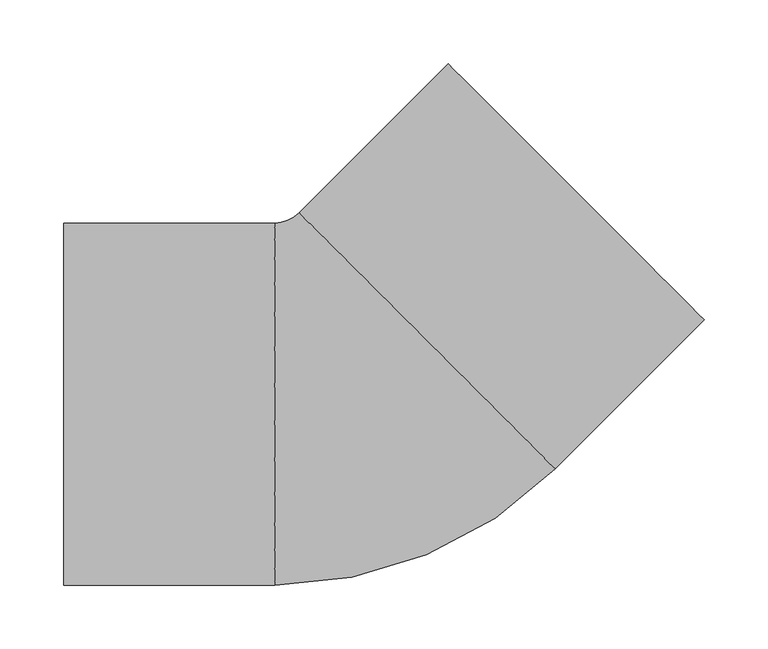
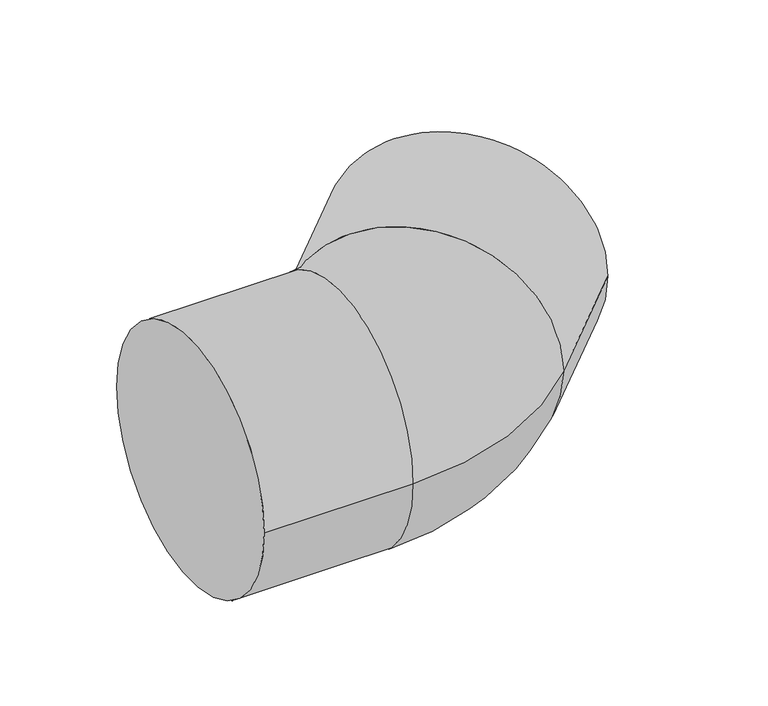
"""IFC4 building model written with IfcOpenShell, lengths in millimetres: pipe fitting geometry, 01051067 : Codos 45º."""

from ifc_helpers import new_model, si_unit, point, frame, origin, place, context, project, spatial, circle_curve, ellipse_curve, trimmed, source, transform, mapped, element, save
from ifc_brep_helpers import plane_surface, cylinder_surface, revolved_surface, advanced_brep


def pipe_fitting_b0149d09(model_context):
    return source(origin(), model_context, "Body", "AdvancedBrep", [
        advanced_brep(
        [(-235.0, -141.75, 0.0), (-235.0, 141.75, 0.0), (-70.0, -141.75, 0.0), (-70.0, 141.75, 0.0), (-50.7349116, 149.7298609, 0.0), (149.7298609, -50.7349116, 0.0), (266.4024798, 65.9377073, 0.0), (65.9377073, 266.4024798, 0.0)],
        [
            (0, 1, circle_curve(frame((-235.0, 0.0, 0.0), z_axis=(-1.0, 0.0, 0.0), x_axis=(0.0, 1.0, 0.0)), 141.75)),
            (1, 0, circle_curve(frame((-235.0, 0.0, 0.0), z_axis=(-1.0, 0.0, 0.0), x_axis=(0.0, 1.0, 0.0)), 141.75)),
            (0, 2),
            (2, 3, circle_curve(frame((-70.0, 0.0, 0.0), z_axis=(-1.0, 0.0, 0.0), x_axis=(0.0, 1.0, 0.0)), 141.75)),
            (3, 1),
            (3, 2, circle_curve(frame((-70.0, 0.0, 0.0), z_axis=(-1.0, 0.0, 0.0), x_axis=(0.0, 1.0, 0.0)), 141.75)),
            (4, 3, circle_curve(frame((-70.0, 168.9949494, 0.0), z_axis=(0.0, 0.0, -1.0), x_axis=(0.0, -1.0, 0.0)), 27.2449494)),
            (2, 5, circle_curve(frame((-70.0, 168.9949494, 0.0), z_axis=(0.0, 0.0, 1.0), x_axis=(0.0, -1.0, 0.0)), 310.7449494)),
            (5, 4, circle_curve(frame((49.4974747, 49.4974747, 0.0), z_axis=(-0.7071067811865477, -0.7071067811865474, 0.0), x_axis=(-0.7071067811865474, 0.7071067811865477, 0.0)), 141.75)),
            (4, 5, circle_curve(frame((49.4974747, 49.4974747, 0.0), z_axis=(-0.7071067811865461, -0.7071067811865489, 0.0), x_axis=(-0.7071067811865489, 0.7071067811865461, 0.0)), 141.75)),
            (6, 7, circle_curve(frame((166.1700936, 166.1700936, 0.0), z_axis=(0.7071067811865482, 0.7071067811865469, 0.0), x_axis=(-0.7071067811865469, 0.7071067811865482, 0.0)), 141.75)),
            (7, 6, circle_curve(frame((166.1700936, 166.1700936, 0.0), z_axis=(0.7071067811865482, 0.7071067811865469, 0.0), x_axis=(-0.7071067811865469, 0.7071067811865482, 0.0)), 141.75)),
            (5, 6),
            (7, 4),
        ],
        [
            plane_surface(frame((-235.0, 0.0, 0.0), z_axis=(-1.0, 0.0, 0.0), x_axis=(0.0, 0.0, 1.0))),
            cylinder_surface(frame((-235.0, 0.0, 0.0), z_axis=(-1.0, 0.0, 0.0), x_axis=(0.0, 1.0, 0.0)), 141.75),
            revolved_surface(trimmed(ellipse_curve(frame((-70.0, 0.0, 0.0), z_axis=(-1.0, 0.0, 0.0), x_axis=(0.0, 1.0, 0.0)), 141.75, 141.75), [point((-70.0, -141.75, 0.0))], [point((-70.0, 141.75, 0.0))], True, "CARTESIAN"), (-70.0, 168.9949494, 0.0), (0.0, 0.0, 1.0)),
            revolved_surface(trimmed(ellipse_curve(frame((-70.0, 0.0, 0.0), z_axis=(-1.0, 0.0, 0.0), x_axis=(0.0, 1.0, 0.0)), 141.75, 141.75), [point((-70.0, 141.75, 0.0))], [point((-70.0, -141.75, 0.0))], True, "CARTESIAN"), (-70.0, 168.9949494, 0.0), (0.0, 0.0, 1.0)),
            plane_surface(frame((166.1700936, 166.1700936, 0.0), z_axis=(0.7071067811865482, 0.7071067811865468, 0.0), x_axis=(0.0, 0.0, 1.0))),
            cylinder_surface(frame((49.4974747, 49.4974747, 0.0), z_axis=(-0.7071067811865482, -0.7071067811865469, 0.0), x_axis=(-0.7071067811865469, 0.7071067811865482, 0.0)), 141.75),
        ],
        [
            (0, [[1, 2]]),
            (1, [[-1, 3, 4, 5]]),
            (1, [[-2, -5, 6, -3]]),
            (2, [[7, -4, 8, 9]]),
            (3, [[-8, -6, -7, 10]]),
            (4, [[11, 12]]),
            (5, [[-9, 13, -12, 14]]),
            (5, [[-10, -14, -11, -13]]),
        ],
    ),
    ])


if __name__ == "__main__":
    model = new_model("IFC4")
    model_context = context("Model", 3, world=origin())
    ifc_project = project(units=[si_unit("LENGTHUNIT", "METRE", prefix="MILLI")], contexts=[model_context])
    site = spatial("IfcSite", under=ifc_project)
    building = spatial("IfcBuilding", under=site)
    placement = place(None, origin())
    pipe_fitting_shape = pipe_fitting_b0149d09(model_context)
    element("IfcPipeFitting", 1, ObjectType="01051067 : Codos 45º", at=placement, inside=building, context=model_context, shape_type="MappedRepresentation", body=[
        mapped(pipe_fitting_shape, transform((0.0, 0.0, 0.0), x_axis=(1.0, 0.0, 0.0), y_axis=(0.0, 1.0, 0.0), z_axis=(0.0, 0.0, 1.0))),
    ])
    save(model, "model.ifc")
